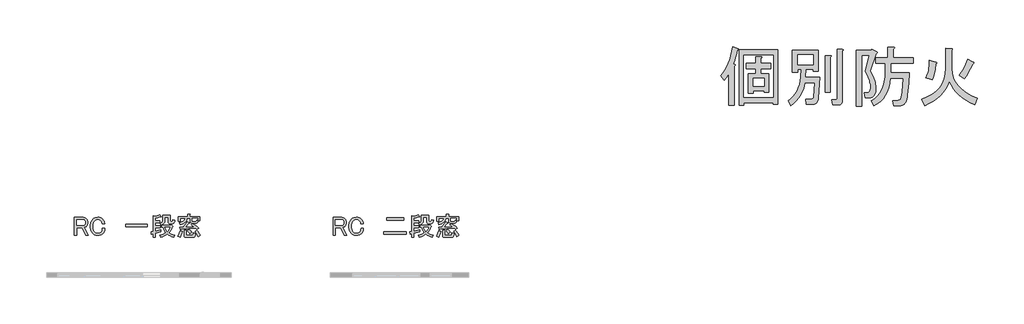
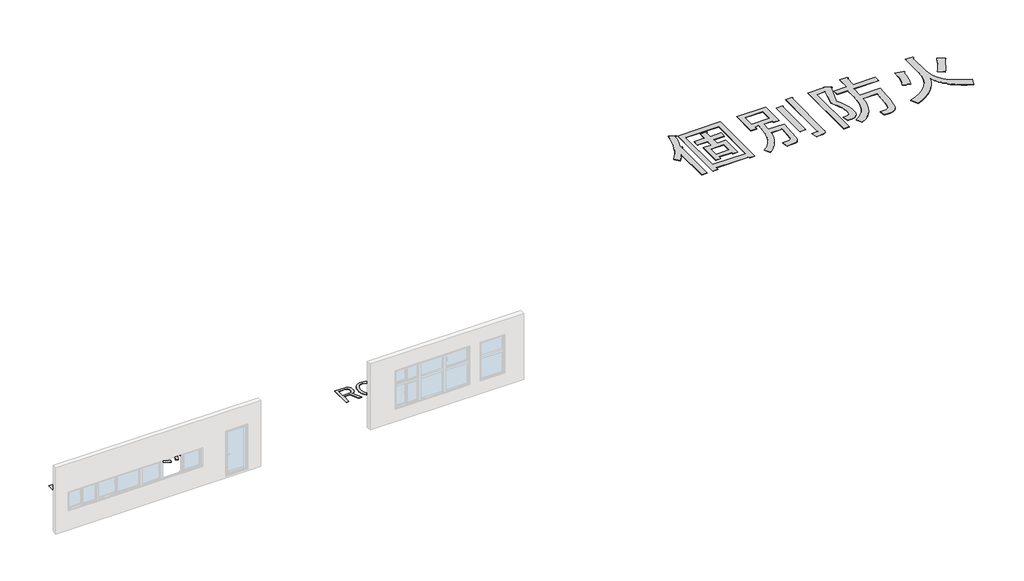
# One storey, part 9 of 9: 3 proxies.
"""IFC4 building model written with IfcOpenShell, lengths in millimetres."""

from ifc_helpers import new_model, si_unit, origin, origin_with_axes, place, context, project, spatial, polyline, outline, extrude, element, save

model = new_model("IFC4")

# Units and contexts
model_context = context("Model", 3, world=origin())
ifc_project = project(units=[si_unit("LENGTHUNIT", "METRE", prefix="MILLI")], contexts=[model_context])

# Site, building, storey
site = spatial("IfcSite", under=ifc_project)
building = spatial("IfcBuilding", under=site)
storey = spatial("IfcBuildingStorey", under=building, Name="レベル 1", Elevation=0.0)

# Proxies
placement = place(None, origin())
element("IfcBuildingElementProxy", 1, Name="600mm Arial", ObjectType="600mm Arial", at=placement, inside=storey, context=model_context, shape_type="SweptSolid", body=[
    extrude(outline(polyline([(161236.0697416, 3042.8218942), (161645.9125802, 3042.8218942), (161692.5687961, 3038.8576406), (161734.9558159, 3026.9648796), (161773.0736394, 3007.1436114), (161806.9222667, 2979.3938359), (161834.6720422, 2944.6303808), (161854.4933105, 2903.768074), (161866.3860714, 2856.8069154), (161870.3503251, 2803.7469051), (161866.3860714, 2750.6868948), (161854.4933105, 2703.7257362), (161834.6720422, 2662.8634294), (161806.9222667, 2628.0999743), (161788.0158262, 2612.5479023), (161765.4500747, 2600.0452562), (161739.2250121, 2590.592036), (161709.3406385, 2584.1882416), (161899.6248135, 2208.498973), (161777.6477782, 2208.498973), (161602.0008475, 2562.5251202), (161348.2886141, 2562.5251202), (161348.2886141, 2208.498973), (161236.0697416, 2208.498973), (161236.0697416, 3042.8218942)]), holes=[polyline([(161348.2886141, 2943.0934702), (161348.2886141, 2662.2535442), (161636.1544173, 2662.2535442), (161659.6349966, 2664.3881423), (161681.2859204, 2670.7919367), (161701.1071886, 2681.4649272), (161719.0988013, 2696.4071141), (161734.0409881, 2715.9234397), (161744.7139787, 2740.3188468), (161751.1177731, 2769.5933352), (161753.2523712, 2803.7469051), (161750.8128305, 2836.0708194), (161743.4942084, 2864.7354227), (161731.2965048, 2889.740715), (161714.2197199, 2911.0866961), (161693.7885665, 2925.0896598), (161671.5277576, 2935.0917767), (161647.4372931, 2941.0930468), (161621.5171731, 2943.0934702), (161348.2886141, 2943.0934702)])]), origin_with_axes(), (0.0, 0.0, 1.0), 10.0),
    extrude(outline(polyline([(161988.8144217, 2618.3418115), (161990.7203129, 2670.5632297), (161996.4379864, 2719.8876934), (162005.9674423, 2766.3152024), (162019.3086805, 2809.8457569), (162036.4617011, 2850.4793567), (162057.426504, 2888.216002), (162082.2030893, 2923.0556927), (162110.791457, 2954.9984288), (162134.8056858, 2976.7255882), (162160.4970988, 2995.5557931), (162187.8656961, 3011.4890433), (162216.9114777, 3024.5253389), (162247.6344434, 3034.66468), (162280.0345934, 3041.9070665), (162349.8664461, 3047.7009756), (162419.0884136, 3042.5169516), (162480.3818738, 3026.9648796), (162508.0554137, 3015.3008256), (162533.7468268, 3001.0447596), (162557.456113, 2984.1966817), (162579.1832724, 2964.7565917), (162617.9109811, 2917.7954331), (162646.2706418, 2864.7354227), (162664.2622545, 2805.5765606), (162671.8858192, 2740.3188468), (162554.7878654, 2740.3188468), (162547.1643007, 2788.4997757), (162534.0517694, 2830.5818529), (162515.4502715, 2866.5650783), (162491.359807, 2896.4494519), (162460.5606056, 2922.0646293), (162426.7119783, 2940.3611846), (162389.8139252, 2951.3391178), (162349.8664461, 2954.9984288), (162307.1744838, 2950.7292326), (162266.9220621, 2937.9216439), (162229.1091812, 2916.5756627), (162193.735841, 2886.6912891), (162173.1522163, 2863.2869454), (162155.3130748, 2836.9856472), (162140.2184167, 2807.7873944), (162127.8682419, 2775.692187), (162118.2625504, 2740.700025), (162111.4013422, 2702.8109084), (162105.9123756, 2618.3418115), (162111.4013422, 2533.8727146), (162118.2625504, 2495.983598), (162127.8682419, 2460.991436), (162140.2184167, 2428.8962286), (162155.3130748, 2399.6979758), (162173.1522163, 2373.3966775), (162193.735841, 2349.9923339), (162227.2795257, 2322.2425584), (162264.4825214, 2302.4212901), (162305.3448282, 2290.5285292), (162349.8664461, 2286.5642756), (162395.9127769, 2289.918644), (162436.4701411, 2299.9817494), (162471.5385388, 2316.7535918), (162501.1179698, 2340.2341711), (162531.0023435, 2378.047052), (162552.3483246, 2423.1785551), (162565.1559134, 2475.6286802), (162569.4251096, 2535.3974275), (162686.5230634, 2535.3974275), (162678.5945562, 2457.0271823), (162670.5135776, 2421.2726639), (162659.6881157, 2387.8052148), (162646.1181705, 2356.6248352), (162629.803742, 2327.731525), (162610.7448303, 2301.1252841), (162588.9414352, 2276.8061127), (162567.0618045, 2257.3660227), (162542.8951044, 2240.5179447), (162516.4413349, 2226.2618787), (162487.700496, 2214.5978247), (162423.3576099, 2199.0457528), (162349.8664461, 2193.8617288), (162280.0345934, 2199.6556379), (162247.6344434, 2206.8980244), (162216.9114777, 2217.0373655), (162187.8656961, 2230.0736611), (162160.4970988, 2246.0069113), (162134.8056858, 2264.8371161), (162110.791457, 2286.5642756), (162082.2030893, 2318.430776), (162057.426504, 2353.0417598), (162036.4617011, 2390.3972268), (162019.3086805, 2430.4971772), (162005.9674423, 2473.3416108), (161996.4379864, 2518.9305277), (161990.7203129, 2567.263928), (161988.8144217, 2618.3418115)])), origin_with_axes(), (0.0, 0.0, 1.0), 10.0),
    extrude(outline(polyline([(164696.3142782, 2725.6816025), (164696.3142782, 2613.4627301), (163666.8281005, 2613.4627301), (163666.8281005, 2725.6816025), (164696.3142782, 2725.6816025)])), origin_with_axes(), (0.0, 0.0, 1.0), 10.0),
    extrude(outline(polyline([(165067.1244654, 3101.3708712), (165127.1981553, 3112.6537469), (165185.4421896, 3126.9860486), (165241.8565684, 3144.3677761), (165296.4412917, 3164.7989295), (165364.7484315, 3086.7336269), (165369.6275129, 3076.3655789), (165364.7484315, 3069.656842), (165350.1111872, 3066.6074161), (165325.7157802, 3067.2173013), (165204.9585152, 3041.6021239), (165076.8826282, 3023.3055686), (165076.8826282, 2891.5703705), (165306.1994545, 2891.5703705), (165306.1994545, 2791.8419465), (165076.8826282, 2791.8419465), (165076.8826282, 2657.3744628), (165311.0785359, 2657.3744628), (165311.0785359, 2557.6460387), (165076.8826282, 2557.6460387), (165076.8826282, 2393.9040666), (165354.9902686, 2452.4530435), (165354.9902686, 2364.6295781), (165076.8826282, 2291.443357), (165076.8826282, 2096.2801005), (164977.1542042, 2096.2801005), (164977.1542042, 2271.9270313), (164925.6311045, 2257.2897871), (164922.276736, 2243.5673706), (164917.092712, 2236.5536911), (164910.0790325, 2236.2487485), (164901.2356974, 2242.6525429), (164886.5984532, 2364.6295781), (164977.1542042, 2379.2668224), (164977.1542042, 3120.8871968), (165067.1244654, 3101.3708712)])), origin_with_axes(), (0.0, 0.0, 1.0), 10.0),
    extrude(outline(polyline([(165959.9963636, 2096.2801005), (165878.8816351, 2126.4694168), (165801.4262177, 2163.3674699), (165727.6301114, 2206.97426), (165657.4933161, 2257.2897871), (165594.0652578, 2210.3286285), (165520.8790366, 2167.026781), (165437.9346526, 2127.3842445), (165345.2321058, 2091.4010191), (165301.3203731, 2193.8617288), (165390.6685514, 2221.9164469), (165468.4289114, 2252.4107057), (165534.6014531, 2285.3445052), (165589.1861763, 2320.7178454), (165546.1892714, 2379.1814384), (165509.9011034, 2440.5968757), (165480.3216724, 2504.9641572), (165457.4509783, 2572.283283), (165384.2647571, 2572.283283), (165384.2647571, 2672.011707), (165813.6239212, 2672.011707), (165833.1402469, 2691.5280327), (165911.2055495, 2628.0999743), (165921.2686549, 2619.2566393), (165922.1834826, 2612.2429597), (165913.9500328, 2607.0589357), (165896.5683052, 2603.7045673), (165858.1455391, 2516.1860445), (165816.0634619, 2439.0355696), (165770.3220737, 2372.2531428), (165720.9213744, 2315.838764), (165778.5555236, 2285.0395626), (165844.1181801, 2256.0700167), (165917.6093438, 2228.9301264), (165999.0290149, 2203.6198916), (165959.9963636, 2096.2801005)]), holes=[polyline([(165545.2744436, 2572.283283), (165561.4364008, 2524.5658668), (165585.5268653, 2475.677471), (165617.545837, 2425.6180958), (165657.4933161, 2374.387741), (165696.2210248, 2418.5922185), (165729.4597669, 2466.3096347), (165757.2095424, 2517.5399895), (165779.4703514, 2572.283283), (165545.2744436, 2572.283283)])]), origin_with_axes(), (0.0, 0.0, 1.0), 10.0),
    extrude(outline(polyline([(165872.1728982, 2847.6586378), (165895.3485349, 2852.5377192), (165902.3622144, 2858.636571), (165906.326468, 2867.1749634), (165925.8427937, 2945.240266), (166018.5453405, 2920.844859), (166010.235655, 2880.317989), (165999.9438426, 2845.1947017), (165987.6699034, 2815.474997), (165973.4138374, 2791.1588751), (165957.1756446, 2772.2463357), (165938.955325, 2758.7373791), (165918.7528785, 2750.6320051), (165896.5683052, 2747.9302138), (165794.1075956, 2747.9302138), (165773.0208156, 2749.3359991), (165754.7456063, 2753.5533551), (165739.2819677, 2760.5822817), (165726.6298997, 2770.4227791), (165716.7894024, 2783.074847), (165709.7604757, 2798.5384857), (165705.5431197, 2816.813695), (165704.1373344, 2837.900475), (165704.1373344, 3050.4332612), (165535.5162808, 3050.4332612), (165535.5162808, 2906.2076147), (165532.6193262, 2865.3453079), (165523.9284625, 2828.1423122), (165509.4436895, 2794.5986275), (165489.1650074, 2764.7142538), (165463.0924161, 2738.4891912), (165431.2259157, 2715.9234397), (165393.565506, 2697.0169992), (165350.1111872, 2681.7698698), (165311.0785359, 2769.5933352), (165340.307283, 2778.2079633), (165365.6388638, 2789.4146035), (165387.0732783, 2803.2132556), (165404.6105266, 2819.6039197), (165418.2506085, 2838.5865958), (165427.9935242, 2860.1612839), (165433.8392737, 2884.327984), (165435.7878568, 2911.0866961), (165435.7878568, 3150.1616853), (165803.8657584, 3150.1616853), (165803.8657584, 2886.6912891), (165806.0003565, 2869.6145041), (165812.4041509, 2857.4168006), (165823.0771415, 2850.0981785), (165838.0193283, 2847.6586378), (165872.1728982, 2847.6586378)])), origin_with_axes(), (0.0, 0.0, 1.0), 10.0),
    extrude(outline(polyline([(167209.0412047, 3086.7336269), (167209.0412047, 2896.4494519), (167126.0968207, 2896.4494519), (167110.5447487, 2845.4752489), (167100.2529364, 2825.4496691), (167088.2839398, 2809.0651038), (167074.637759, 2796.3215531), (167059.3143939, 2787.2190168), (167042.3138446, 2781.7574951), (167023.6361111, 2779.9369878), (166818.7146919, 2779.9369878), (166785.7564969, 2785.3893613), (166772.8086346, 2792.2048281), (166762.2149291, 2801.7464817), (166753.9753804, 2814.014322), (166748.0899884, 2829.0083491), (166743.3816749, 2867.1749634), (166743.3816749, 2999.4956513), (166599.1560284, 2999.4956513), (166592.8284697, 2950.2321762), (166576.2853343, 2904.2193891), (166549.5266222, 2861.4572899), (166512.5523333, 2821.9458788), (166465.3624678, 2785.6851556), (166407.9570256, 2752.6751204), (166340.3360067, 2722.9157733), (166262.499411, 2696.4071141), (166233.2249226, 2789.1096609), (166296.1193314, 2807.7233564), (166350.627819, 2828.5326387), (166396.7503855, 2851.5375075), (166434.4870308, 2876.737963), (166463.8377549, 2904.1340051), (166484.8025578, 2933.7256339), (166497.3814396, 2965.5128493), (166501.5744002, 2999.4956513), (166272.2575739, 2999.4956513), (166272.2575739, 2872.0540449), (166172.5291498, 2872.0540449), (166172.5291498, 3086.7336269), (166636.0418838, 3086.7336269), (166636.0418838, 3203.8315808), (166730.8912265, 3203.8315808), (166745.8334133, 3200.1722697), (166751.6273225, 3194.073418), (166748.272954, 3185.5350255), (166735.7703079, 3174.5570923), (166735.7703079, 3086.7336269), (167209.0412047, 3086.7336269)]), holes=[polyline([(166994.3616227, 2867.1749634), (167009.9136946, 2870.8342745), (167022.4163408, 2881.8122077), (167031.869561, 2900.108763), (167038.2733553, 2925.7239404), (167109.3127807, 2906.2076147), (167109.3127807, 2999.4956513), (166843.1100989, 2999.4956513), (166843.1100989, 2896.4494519), (166844.9397544, 2883.6418632), (166850.428721, 2874.4935856), (166859.5769987, 2869.004619), (166872.3845874, 2867.1749634), (166994.3616227, 2867.1749634)])]), origin_with_axes(), (0.0, 0.0, 1.0), 10.0),
    extrude(outline(polyline([(166540.6070514, 2099.0123861), (166519.5202715, 2100.4181715), (166501.2450622, 2104.6355275), (166485.7814235, 2111.6644541), (166473.1293555, 2121.5049514), (166463.2888582, 2134.1570194), (166456.2599316, 2149.6206581), (166452.0425756, 2167.8958674), (166450.6367902, 2188.9826473), (166450.6367902, 2432.9367179), (166545.4861329, 2432.9367179), (166560.4283197, 2429.2774068), (166566.2222289, 2423.1785551), (166562.8678604, 2414.6401626), (166550.3652143, 2403.6622294), (166550.3652143, 2232.89438), (166552.1948698, 2217.9521932), (166557.6838364, 2207.2792026), (166566.832114, 2200.8754083), (166579.6397027, 2198.7408102), (166838.2310175, 2198.7408102), (166849.7426002, 2200.4179944), (166859.8819413, 2205.4495471), (166876.0438984, 2225.5757579), (166886.716889, 2259.1194426), (166891.900913, 2306.0806012), (166999.2407041, 2281.6851941), (166994.3616227, 2238.8712548), (166987.0430005, 2201.7658406), (166977.2848377, 2170.3689518), (166965.0871342, 2144.6805881), (166950.44989, 2124.7007498), (166933.373105, 2110.4294366), (166913.8567794, 2101.8666488), (166891.900913, 2099.0123861), (166540.6070514, 2099.0123861)])), origin_with_axes(), (0.0, 0.0, 1.0), 10.0),
    extrude(outline(polyline([(166306.4111437, 2491.4856948), (166303.0567753, 2477.7632783), (166297.8727513, 2470.7495988), (166290.8590717, 2470.4446562), (166282.0157367, 2476.8484506), (166257.6203296, 2584.1882416), (166408.8718534, 2584.1882416), (166594.276947, 2842.7795564), (166691.8585752, 2784.2305795), (166692.1635178, 2774.167474), (166688.1992641, 2768.3735649), (166679.9658142, 2766.8488519), (166667.4631681, 2769.5933352), (166501.5744002, 2584.1882416), (166921.1754015, 2608.5836487), (166854.0880321, 2661.0337738), (166789.4402034, 2701.2861955), (166852.8682617, 2754.956091), (166915.6864349, 2725.0717174), (166987.0430005, 2679.3303291), (167066.9379586, 2617.7319263), (167155.3713092, 2540.2765089), (167067.5478438, 2471.9693692), (166999.2407041, 2540.2765089), (166306.4111437, 2491.4856948)])), origin_with_axes(), (0.0, 0.0, 1.0), 10.0),
    extrude(outline(polyline([(167057.789681, 2432.9367179), (167106.2755525, 2378.047052), (167149.2724574, 2320.7178454), (167186.7803958, 2260.9490981), (167218.7993675, 2198.7408102), (167121.2177393, 2135.3127518), (167090.4185379, 2203.6198916), (167056.5699106, 2267.0479499), (167019.6718575, 2325.5969268), (166979.7243784, 2379.2668224), (167057.789681, 2432.9367179)])), origin_with_axes(), (0.0, 0.0, 1.0), 10.0),
    extrude(outline(polyline([(166721.1330636, 2276.8061127), (166703.4463935, 2309.7399123), (166679.6608717, 2345.1132525), (166613.7932726, 2423.1785551), (166696.7376566, 2476.8484506), (166727.8418006, 2450.0135028), (166757.7261742, 2418.2994736), (166786.3907775, 2381.7063631), (166813.8356105, 2340.2341711), (166721.1330636, 2276.8061127)])), origin_with_axes(), (0.0, 0.0, 1.0), 10.0),
    extrude(outline(polyline([(166164.9177828, 2159.7081589), (166200.5960656, 2228.9301264), (166229.5656115, 2295.102668), (166251.8264204, 2358.2257838), (166267.3784924, 2418.2994736), (166364.9601207, 2384.1459038), (166371.9738002, 2376.8272817), (166373.4985131, 2369.5086595), (166369.5342595, 2362.1900374), (166360.0810392, 2354.8714153), (166341.1745988, 2288.3939311), (166318.6088473, 2225.5757579), (166292.3837847, 2166.4168958), (166262.499411, 2110.9173448), (166164.9177828, 2159.7081589)])), origin_with_axes(), (0.0, 0.0, 1.0), 10.0),
])
element("IfcBuildingElementProxy", 2, Name="600mm Arial", ObjectType="600mm Arial", at=placement, inside=storey, context=model_context, shape_type="SweptSolid", body=[
    extrude(outline(polyline([(173541.0127567, 3042.8218942), (173950.8555952, 3042.8218942), (173997.5118112, 3038.8576406), (174039.898831, 3026.9648796), (174078.0166545, 3007.1436114), (174111.8652818, 2979.3938359), (174139.6150573, 2944.6303808), (174159.4363256, 2903.768074), (174171.3290865, 2856.8069154), (174175.2933401, 2803.7469051), (174171.3290865, 2750.6868948), (174159.4363256, 2703.7257362), (174139.6150573, 2662.8634294), (174111.8652818, 2628.0999743), (174092.9588413, 2612.5479023), (174070.3930898, 2600.0452562), (174044.1680272, 2590.592036), (174014.2836536, 2584.1882416), (174204.5678286, 2208.498973), (174082.5907933, 2208.498973), (173906.9438625, 2562.5251202), (173653.2316292, 2562.5251202), (173653.2316292, 2208.498973), (173541.0127567, 2208.498973), (173541.0127567, 3042.8218942)]), holes=[polyline([(173653.2316292, 2943.0934702), (173653.2316292, 2662.2535442), (173941.0974324, 2662.2535442), (173964.5780117, 2664.3881423), (173986.2289355, 2670.7919367), (174006.0502037, 2681.4649272), (174024.0418164, 2696.4071141), (174038.9840032, 2715.9234397), (174049.6569938, 2740.3188468), (174056.0607882, 2769.5933352), (174058.1953863, 2803.7469051), (174055.7558456, 2836.0708194), (174048.4372235, 2864.7354227), (174036.2395199, 2889.740715), (174019.162735, 2911.0866961), (173998.7315816, 2925.0896598), (173976.4707726, 2935.0917767), (173952.3803082, 2941.0930468), (173926.4601882, 2943.0934702), (173653.2316292, 2943.0934702)])]), origin_with_axes(), (0.0, 0.0, 1.0), 10.0),
    extrude(outline(polyline([(174293.7574368, 2618.3418115), (174295.663328, 2670.5632297), (174301.3810015, 2719.8876934), (174310.9104574, 2766.3152024), (174324.2516956, 2809.8457569), (174341.4047162, 2850.4793567), (174362.3695191, 2888.216002), (174387.1461044, 2923.0556927), (174415.7344721, 2954.9984288), (174439.7487009, 2976.7255882), (174465.4401139, 2995.5557931), (174492.8087112, 3011.4890433), (174521.8544927, 3024.5253389), (174552.5774585, 3034.66468), (174584.9776085, 3041.9070665), (174654.8094612, 3047.7009756), (174724.0314287, 3042.5169516), (174785.3248889, 3026.9648796), (174812.9984288, 3015.3008256), (174838.6898419, 3001.0447596), (174862.3991281, 2984.1966817), (174884.1262875, 2964.7565917), (174922.8539962, 2917.7954331), (174951.2136569, 2864.7354227), (174969.2052696, 2805.5765606), (174976.8288343, 2740.3188468), (174859.7308804, 2740.3188468), (174852.1073157, 2788.4997757), (174838.9947844, 2830.5818529), (174820.3932866, 2866.5650783), (174796.3028221, 2896.4494519), (174765.5036207, 2922.0646293), (174731.6549934, 2940.3611846), (174694.7569402, 2951.3391178), (174654.8094612, 2954.9984288), (174612.1174988, 2950.7292326), (174571.8650772, 2937.9216439), (174534.0521963, 2916.5756627), (174498.678856, 2886.6912891), (174478.0952313, 2863.2869454), (174460.2560899, 2836.9856472), (174445.1614318, 2807.7873944), (174432.811257, 2775.692187), (174423.2055655, 2740.700025), (174416.3443572, 2702.8109084), (174410.8553906, 2618.3418115), (174416.3443572, 2533.8727146), (174423.2055655, 2495.983598), (174432.811257, 2460.991436), (174445.1614318, 2428.8962286), (174460.2560899, 2399.6979758), (174478.0952313, 2373.3966775), (174498.678856, 2349.9923339), (174532.2225407, 2322.2425584), (174569.4255365, 2302.4212901), (174610.2878433, 2290.5285292), (174654.8094612, 2286.5642756), (174700.855792, 2289.918644), (174741.4131562, 2299.9817494), (174776.4815539, 2316.7535918), (174806.0609849, 2340.2341711), (174835.9453586, 2378.047052), (174857.2913397, 2423.1785551), (174870.0989284, 2475.6286802), (174874.3681247, 2535.3974275), (174991.4660785, 2535.3974275), (174983.5375712, 2457.0271823), (174975.4565927, 2421.2726639), (174964.6311308, 2387.8052148), (174951.0611856, 2356.6248352), (174934.7467571, 2327.731525), (174915.6878454, 2301.1252841), (174893.8844503, 2276.8061127), (174872.0048196, 2257.3660227), (174847.8381195, 2240.5179447), (174821.38435, 2226.2618787), (174792.643511, 2214.5978247), (174728.3006249, 2199.0457528), (174654.8094612, 2193.8617288), (174584.9776085, 2199.6556379), (174552.5774585, 2206.8980244), (174521.8544927, 2217.0373655), (174492.8087112, 2230.0736611), (174465.4401139, 2246.0069113), (174439.7487009, 2264.8371161), (174415.7344721, 2286.5642756), (174387.1461044, 2318.430776), (174362.3695191, 2353.0417598), (174341.4047162, 2390.3972268), (174324.2516956, 2430.4971772), (174310.9104574, 2473.3416108), (174301.3810015, 2518.9305277), (174295.663328, 2567.263928), (174293.7574368, 2618.3418115)])), origin_with_axes(), (0.0, 0.0, 1.0), 10.0),
    extrude(outline(polyline([(176898.7965836, 3028.18465), (176898.7965836, 2915.9657775), (176098.6272323, 2915.9657775), (176098.6272323, 3028.18465), (176898.7965836, 3028.18465)])), origin_with_axes(), (0.0, 0.0, 1.0), 10.0),
    extrude(outline(polyline([(177020.7736189, 2364.6295781), (177020.7736189, 2252.4107057), (175966.8920342, 2252.4107057), (175966.8920342, 2364.6295781), (177020.7736189, 2364.6295781)])), origin_with_axes(), (0.0, 0.0, 1.0), 10.0),
    extrude(outline(polyline([(177372.0674805, 3101.3708712), (177432.1411704, 3112.6537469), (177490.3852047, 3126.9860486), (177546.7995835, 3144.3677761), (177601.3843068, 3164.7989295), (177669.6914465, 3086.7336269), (177674.5705279, 3076.3655789), (177669.6914465, 3069.656842), (177655.0542023, 3066.6074161), (177630.6587953, 3067.2173013), (177509.9015303, 3041.6021239), (177381.8256433, 3023.3055686), (177381.8256433, 2891.5703705), (177611.1424696, 2891.5703705), (177611.1424696, 2791.8419465), (177381.8256433, 2791.8419465), (177381.8256433, 2657.3744628), (177616.021551, 2657.3744628), (177616.021551, 2557.6460387), (177381.8256433, 2557.6460387), (177381.8256433, 2393.9040666), (177659.9332837, 2452.4530435), (177659.9332837, 2364.6295781), (177381.8256433, 2291.443357), (177381.8256433, 2096.2801005), (177282.0972193, 2096.2801005), (177282.0972193, 2271.9270313), (177230.5741196, 2257.2897871), (177227.2197511, 2243.5673706), (177222.0357271, 2236.5536911), (177215.0220476, 2236.2487485), (177206.1787125, 2242.6525429), (177191.5414683, 2364.6295781), (177282.0972193, 2379.2668224), (177282.0972193, 3120.8871968), (177372.0674805, 3101.3708712)])), origin_with_axes(), (0.0, 0.0, 1.0), 10.0),
    extrude(outline(polyline([(178264.9393787, 2096.2801005), (178183.8246502, 2126.4694168), (178106.3692328, 2163.3674699), (178032.5731265, 2206.97426), (177962.4363312, 2257.2897871), (177899.0082728, 2210.3286285), (177825.8220517, 2167.026781), (177742.8776677, 2127.3842445), (177650.1751209, 2091.4010191), (177606.2633882, 2193.8617288), (177695.6115665, 2221.9164469), (177773.3719265, 2252.4107057), (177839.5444682, 2285.3445052), (177894.1291914, 2320.7178454), (177851.1322865, 2379.1814384), (177814.8441185, 2440.5968757), (177785.2646875, 2504.9641572), (177762.3939933, 2572.283283), (177689.2077722, 2572.283283), (177689.2077722, 2672.011707), (178118.5669363, 2672.011707), (178138.083262, 2691.5280327), (178216.1485645, 2628.0999743), (178226.21167, 2619.2566393), (178227.1264977, 2612.2429597), (178218.8930478, 2607.0589357), (178201.5113203, 2603.7045673), (178163.0885542, 2516.1860445), (178121.006477, 2439.0355696), (178075.2650888, 2372.2531428), (178025.8643895, 2315.838764), (178083.4985387, 2285.0395626), (178149.0611951, 2256.0700167), (178222.5523589, 2228.9301264), (178303.9720299, 2203.6198916), (178264.9393787, 2096.2801005)]), holes=[polyline([(177850.2174587, 2572.283283), (177866.3794159, 2524.5658668), (177890.4698804, 2475.677471), (177922.4888521, 2425.6180958), (177962.4363312, 2374.387741), (178001.1640399, 2418.5922185), (178034.402782, 2466.3096347), (178062.1525575, 2517.5399895), (178084.4133665, 2572.283283), (177850.2174587, 2572.283283)])]), origin_with_axes(), (0.0, 0.0, 1.0), 10.0),
    extrude(outline(polyline([(178177.1159133, 2847.6586378), (178200.29155, 2852.5377192), (178207.3052295, 2858.636571), (178211.2694831, 2867.1749634), (178230.7858088, 2945.240266), (178323.4883556, 2920.844859), (178315.1786701, 2880.317989), (178304.8868577, 2845.1947017), (178292.6129185, 2815.474997), (178278.3568525, 2791.1588751), (178262.1186597, 2772.2463357), (178243.8983401, 2758.7373791), (178223.6958936, 2750.6320051), (178201.5113203, 2747.9302138), (178099.0506107, 2747.9302138), (178077.9638307, 2749.3359991), (178059.6886214, 2753.5533551), (178044.2249828, 2760.5822817), (178031.5729148, 2770.4227791), (178021.7324175, 2783.074847), (178014.7034908, 2798.5384857), (178010.4861348, 2816.813695), (178009.0803495, 2837.900475), (178009.0803495, 3050.4332612), (177840.4592959, 3050.4332612), (177840.4592959, 2906.2076147), (177837.5623413, 2865.3453079), (177828.8714776, 2828.1423122), (177814.3867046, 2794.5986275), (177794.1080225, 2764.7142538), (177768.0354312, 2738.4891912), (177736.1689308, 2715.9234397), (177698.5085211, 2697.0169992), (177655.0542023, 2681.7698698), (177616.021551, 2769.5933352), (177645.2502981, 2778.2079633), (177670.5818789, 2789.4146035), (177692.0162934, 2803.2132556), (177709.5535417, 2819.6039197), (177723.1936236, 2838.5865958), (177732.9365393, 2860.1612839), (177738.7822887, 2884.327984), (177740.7308719, 2911.0866961), (177740.7308719, 3150.1616853), (178108.8087735, 3150.1616853), (178108.8087735, 2886.6912891), (178110.9433716, 2869.6145041), (178117.347166, 2857.4168006), (178128.0201566, 2850.0981785), (178142.9623434, 2847.6586378), (178177.1159133, 2847.6586378)])), origin_with_axes(), (0.0, 0.0, 1.0), 10.0),
    extrude(outline(polyline([(179513.9842198, 3086.7336269), (179513.9842198, 2896.4494519), (179431.0398358, 2896.4494519), (179415.4877638, 2845.4752489), (179405.1959515, 2825.4496691), (179393.2269549, 2809.0651038), (179379.5807741, 2796.3215531), (179364.257409, 2787.2190168), (179347.2568597, 2781.7574951), (179328.5791262, 2779.9369878), (179123.6577069, 2779.9369878), (179090.699512, 2785.3893613), (179077.7516497, 2792.2048281), (179067.1579442, 2801.7464817), (179058.9183955, 2814.014322), (179053.0330035, 2829.0083491), (179048.32469, 2867.1749634), (179048.32469, 2999.4956513), (178904.0990435, 2999.4956513), (178897.7714848, 2950.2321762), (178881.2283494, 2904.2193891), (178854.4696372, 2861.4572899), (178817.4953484, 2821.9458788), (178770.3054829, 2785.6851556), (178712.9000407, 2752.6751204), (178645.2790218, 2722.9157733), (178567.4424261, 2696.4071141), (178538.1679377, 2789.1096609), (178601.0623465, 2807.7233564), (178655.5708341, 2828.5326387), (178701.6934006, 2851.5375075), (178739.4300459, 2876.737963), (178768.78077, 2904.1340051), (178789.7455729, 2933.7256339), (178802.3244547, 2965.5128493), (178806.5174152, 2999.4956513), (178577.2005889, 2999.4956513), (178577.2005889, 2872.0540449), (178477.4721649, 2872.0540449), (178477.4721649, 3086.7336269), (178940.9848989, 3086.7336269), (178940.9848989, 3203.8315808), (179035.8342416, 3203.8315808), (179050.7764284, 3200.1722697), (179056.5703376, 3194.073418), (179053.2159691, 3185.5350255), (179040.713323, 3174.5570923), (179040.713323, 3086.7336269), (179513.9842198, 3086.7336269)]), holes=[polyline([(179299.3046377, 2867.1749634), (179314.8567097, 2870.8342745), (179327.3593558, 2881.8122077), (179336.8125761, 2900.108763), (179343.2163704, 2925.7239404), (179414.2557958, 2906.2076147), (179414.2557958, 2999.4956513), (179148.053114, 2999.4956513), (179148.053114, 2896.4494519), (179149.8827695, 2883.6418632), (179155.3717361, 2874.4935856), (179164.5200138, 2869.004619), (179177.3276025, 2867.1749634), (179299.3046377, 2867.1749634)])]), origin_with_axes(), (0.0, 0.0, 1.0), 10.0),
    extrude(outline(polyline([(178845.5500665, 2099.0123861), (178824.4632866, 2100.4181715), (178806.1880773, 2104.6355275), (178790.7244386, 2111.6644541), (178778.0723706, 2121.5049514), (178768.2318733, 2134.1570194), (178761.2029466, 2149.6206581), (178756.9855907, 2167.8958674), (178755.5798053, 2188.9826473), (178755.5798053, 2432.9367179), (178850.4291479, 2432.9367179), (178865.3713348, 2429.2774068), (178871.1652439, 2423.1785551), (178867.8108755, 2414.6401626), (178855.3082294, 2403.6622294), (178855.3082294, 2232.89438), (178857.1378849, 2217.9521932), (178862.6268515, 2207.2792026), (178871.7751291, 2200.8754083), (178884.5827178, 2198.7408102), (179143.1740326, 2198.7408102), (179154.6856153, 2200.4179944), (179164.8249564, 2205.4495471), (179180.9869135, 2225.5757579), (179191.6599041, 2259.1194426), (179196.8439281, 2306.0806012), (179304.1837191, 2281.6851941), (179299.3046377, 2238.8712548), (179291.9860156, 2201.7658406), (179282.2278528, 2170.3689518), (179270.0301493, 2144.6805881), (179255.392905, 2124.7007498), (179238.3161201, 2110.4294366), (179218.7997945, 2101.8666488), (179196.8439281, 2099.0123861), (178845.5500665, 2099.0123861)])), origin_with_axes(), (0.0, 0.0, 1.0), 10.0),
    extrude(outline(polyline([(178611.3541588, 2491.4856948), (178607.9997903, 2477.7632783), (178602.8157663, 2470.7495988), (178595.8020868, 2470.4446562), (178586.9587518, 2476.8484506), (178562.5633447, 2584.1882416), (178713.8148684, 2584.1882416), (178899.2199621, 2842.7795564), (178996.8015903, 2784.2305795), (178997.1065329, 2774.167474), (178993.1422792, 2768.3735649), (178984.9088293, 2766.8488519), (178972.4061832, 2769.5933352), (178806.5174152, 2584.1882416), (179226.1184166, 2608.5836487), (179159.0310472, 2661.0337738), (179094.3832185, 2701.2861955), (179157.8112768, 2754.956091), (179220.62945, 2725.0717174), (179291.9860156, 2679.3303291), (179371.8809737, 2617.7319263), (179460.3143243, 2540.2765089), (179372.4908589, 2471.9693692), (179304.1837191, 2540.2765089), (178611.3541588, 2491.4856948)])), origin_with_axes(), (0.0, 0.0, 1.0), 10.0),
    extrude(outline(polyline([(179362.7326961, 2432.9367179), (179411.2185676, 2378.047052), (179454.2154725, 2320.7178454), (179491.7234109, 2260.9490981), (179523.7423826, 2198.7408102), (179426.1607544, 2135.3127518), (179395.361553, 2203.6198916), (179361.5129257, 2267.0479499), (179324.6148726, 2325.5969268), (179284.6673935, 2379.2668224), (179362.7326961, 2432.9367179)])), origin_with_axes(), (0.0, 0.0, 1.0), 10.0),
    extrude(outline(polyline([(179026.0760787, 2276.8061127), (179008.3894086, 2309.7399123), (178984.6038867, 2345.1132525), (178918.7362877, 2423.1785551), (179001.6806717, 2476.8484506), (179032.7848157, 2450.0135028), (179062.6691893, 2418.2994736), (179091.3337926, 2381.7063631), (179118.7786255, 2340.2341711), (179026.0760787, 2276.8061127)])), origin_with_axes(), (0.0, 0.0, 1.0), 10.0),
    extrude(outline(polyline([(178469.8607979, 2159.7081589), (178505.5390807, 2228.9301264), (178534.5086266, 2295.102668), (178556.7694355, 2358.2257838), (178572.3215075, 2418.2994736), (178669.9031357, 2384.1459038), (178676.9168153, 2376.8272817), (178678.4415282, 2369.5086595), (178674.4772746, 2362.1900374), (178665.0240543, 2354.8714153), (178646.1176139, 2288.3939311), (178623.5518623, 2225.5757579), (178597.3267998, 2166.4168958), (178567.4424261, 2110.9173448), (178469.8607979, 2159.7081589)])), origin_with_axes(), (0.0, 0.0, 1.0), 10.0),
])
element("IfcBuildingElementProxy", 3, Name="800mm Arial 2", ObjectType="800mm Arial 2", at=placement, inside=storey, context=model_context, shape_type="SweptSolid", body=[
    extrude(outline(polyline([(194485.3665442, 8442.926734), (194485.3665442, 8511.1075304), (193085.9434345, 8511.1075304), (193085.9434345, 8393.8758013), (192866.6857654, 8393.8758013), (192866.6857654, 11018.1007002), (194704.6242133, 11018.1007002), (194704.6242133, 8442.926734), (194485.3665442, 8442.926734)]), holes=[polyline([(193085.9434345, 10767.4504342), (193085.9434345, 8761.7577965), (194485.3665442, 8761.7577965), (194485.3665442, 10767.4504342), (193085.9434345, 10767.4504342)])]), origin_with_axes(), (0.0, 0.0, 1.0), 10.0),
    extrude(outline(polyline([(192632.2223071, 8381.6130681), (192381.5720411, 8381.6130681), (192381.5720411, 9889.9292483), (192331.4787761, 9805.6229578), (192276.8482998, 9724.3823505), (192217.6806122, 9646.2074265), (192153.9757134, 9571.0981859), (191994.5601822, 9779.5646498), (192094.5780996, 9908.7065585), (192186.165388, 10050.8776212), (192269.3220473, 10206.077838), (192344.0480776, 10374.3072087), (192410.3434788, 10555.5657334), (192468.208251, 10749.8534121), (192517.6423941, 10957.1702448), (192558.6459081, 11177.5162315), (192816.1633047, 11079.4143661), (192832.258142, 11057.1881622), (192833.9825889, 11047.7995071), (192831.4917212, 11039.5604833), (192824.785539, 11032.4710907), (192813.8640423, 11026.5313293), (192779.3751052, 11018.1007002), (192749.4846931, 10869.4150605), (192708.8643895, 10705.4010043), (192657.5141943, 10526.0585317), (192595.4341076, 10331.3876426), (192628.1985978, 10327.3639332), (192652.9156694, 10321.4241719), (192669.5853223, 10313.5683584), (192678.2075565, 10303.7964929), (192678.7823722, 10292.1085754), (192671.3097691, 10278.5046058), (192655.7897475, 10262.9845841), (192632.2223071, 10245.5485104), (192632.2223071, 8381.6130681)])), origin_with_axes(), (0.0, 0.0, 1.0), 10.0),
    extrude(outline(polyline([(193907.5465571, 10380.4385753), (194373.5304177, 10380.4385753), (194373.5304177, 10129.7883092), (193907.5465571, 10129.7883092), (193907.5465571, 9877.6665152), (194287.6912854, 9877.6665152), (194287.6912854, 8994.7497268), (194068.4336163, 8994.7497268), (194068.4336163, 9069.7976538), (193527.4018287, 9069.7976538), (193527.4018287, 8945.6987941), (193308.1441596, 8945.6987941), (193308.1441596, 9877.6665152), (193656.896291, 9877.6665152), (193656.896291, 10129.7883092), (193208.5707663, 10129.7883092), (193208.5707663, 10380.4385753), (193656.896291, 10380.4385753), (193656.896291, 10699.2696377), (193895.2838239, 10699.2696377), (193932.8384443, 10690.0725879), (193942.9935202, 10683.1748004), (193947.4004399, 10674.7441714), (193946.0592035, 10664.7807007), (193938.9698108, 10653.2843883), (193907.5465571, 10625.6932387), (193907.5465571, 10380.4385753)]), holes=[polyline([(193527.4018287, 9658.4088461), (193527.4018287, 9289.0553229), (194068.4336163, 9289.0553229), (194068.4336163, 9658.4088461), (193527.4018287, 9658.4088461)])]), origin_with_axes(), (0.0, 0.0, 1.0), 10.0),
    extrude(outline(polyline([(196458.195057, 9455.3379847), (195992.2111964, 9455.3379847), (195957.7222594, 9287.9363485), (195909.4377475, 9129.578478), (195847.3576608, 8980.2643732), (195771.4819993, 8839.9940341), (195681.810763, 8708.7674608), (195578.3439519, 8586.5846531), (195461.0815659, 8473.4456112), (195330.0236051, 8369.350335), (195207.3962734, 8602.3422652), (195334.62213, 8703.1266035), (195446.5195702, 8815.4072541), (195543.088594, 8939.1842171), (195624.3292013, 9074.4574924), (195690.2413921, 9221.22708), (195740.8251664, 9379.49298), (195776.0805243, 9549.2551924), (195796.0074657, 9730.5137171), (195820.532932, 10087.6045071), (195648.8546676, 10087.6045071), (195648.8546676, 9951.2429142), (195398.2044015, 9951.2429142), (195398.2044015, 11005.8379671), (196642.1360546, 11005.8379671), (196642.1360546, 10000.2938469), (196391.4857885, 10000.2938469), (196391.4857885, 10087.6045071), (196041.2621291, 10087.6045071), (196016.7366628, 9705.9882508), (196703.4497204, 9705.9882508), (196642.1360546, 8737.2323301), (196632.9390047, 8664.1157836), (196617.6105882, 8600.7481099), (196596.1508052, 8547.1293091), (196568.5596555, 8503.2593812), (196534.8371393, 8469.1383261), (196494.9832565, 8444.766144), (196448.9980071, 8430.1428347), (196396.8813911, 8425.2683982), (196065.7875955, 8425.2683982), (196028.9993959, 8675.9186643), (196298.7795257, 8675.9186643), (196324.8378337, 8677.8347163), (196347.8304584, 8683.5828725), (196367.7573998, 8693.1631328), (196384.618658, 8706.5754972), (196398.4142328, 8723.8199657), (196409.1441243, 8744.8965384), (196416.8083325, 8769.8052151), (196421.4068575, 8798.545996), (196458.195057, 9455.3379847)]), holes=[polyline([(196391.4857885, 10306.8621762), (196391.4857885, 10786.5802979), (195648.8546676, 10786.5802979), (195648.8546676, 10306.8621762), (196391.4857885, 10306.8621762)])]), origin_with_axes(), (0.0, 0.0, 1.0), 10.0),
    extrude(outline(polyline([(197782.5702396, 8626.8677316), (197779.5045563, 8573.8697316), (197770.3075064, 8527.9381317), (197754.97909, 8489.0729318), (197733.5193069, 8457.2741318), (197705.9281573, 8432.5417318), (197672.2056411, 8414.8757319), (197632.3517583, 8404.2761319), (197586.3665089, 8400.7429319), (197316.5863791, 8400.7429319), (197267.5354464, 8651.3931979), (197500.5273767, 8651.3931979), (197514.2616378, 8653.6924604), (197524.0718243, 8660.5902478), (197529.9579363, 8672.0865601), (197531.9199736, 8688.1813974), (197531.9199736, 11042.6261666), (197770.3075064, 11042.6261666), (197807.8621268, 11033.4291167), (197818.0172027, 11026.5313293), (197822.4241224, 11018.1007002), (197821.082886, 11008.1372295), (197813.9934934, 10996.6409172), (197782.5702396, 10969.0497675), (197782.5702396, 8626.8677316)])), origin_with_axes(), (0.0, 0.0, 1.0), 10.0),
    extrude(outline(polyline([(197193.9590473, 10748.3205704), (197231.5136677, 10739.1235205), (197241.6687436, 10732.2257331), (197246.0756633, 10723.7951041), (197244.7344269, 10713.8316334), (197237.6450343, 10702.335321), (197206.2217805, 10674.7441714), (197206.2217805, 8994.7497268), (196955.5715145, 8994.7497268), (196955.5715145, 10748.3205704), (197193.9590473, 10748.3205704)])), origin_with_axes(), (0.0, 0.0, 1.0), 10.0),
    extrude(outline(polyline([(200063.4386097, 9676.0671818), (200035.0810393, 9438.3924203), (199986.7965274, 9221.5183199), (199918.5850741, 9025.4448807), (199830.4466794, 8850.1721026), (199722.3813434, 8695.6999857), (199594.3890659, 8562.0285299), (199446.469847, 8449.1577353), (199278.6236867, 8357.0876018), (199155.9963549, 8602.3422652), (199312.8060554, 8696.6120265), (199448.7077958, 8813.8744125), (199563.7015761, 8954.1294231), (199657.7873964, 9117.3770585), (199730.9652566, 9303.6173185), (199783.2351567, 9512.8502033), (199814.5970968, 9745.0757127), (199825.0510768, 10000.2938469), (199825.0510768, 10387.3057058), (199364.4628189, 10387.3057058), (199364.4628189, 10637.9559719), (199928.5485448, 10637.9559719), (199928.5485448, 11152.9907651), (200198.3286746, 11152.9907651), (200225.3450086, 11146.0929777), (200245.0803448, 11137.6623487), (200257.5346832, 11127.698878), (200262.7080238, 11116.2025656), (200260.6003665, 11103.1734116), (200251.2117114, 11088.611416), (200234.5420585, 11072.5165787), (200210.5914078, 11054.8888997), (200210.5914078, 10637.9559719), (201154.8218621, 10637.9559719), (201154.8218621, 10387.3057058), (200075.7013429, 10387.3057058), (200075.7013429, 9926.7174479), (200958.6181313, 9926.7174479), (200931.0269817, 9437.7409626), (200914.9321444, 9231.1905507), (200897.3044655, 9049.932026), (200878.1439449, 8893.9653885), (200857.4505826, 8763.2906381), (200835.2243788, 8657.9077749), (200811.4653332, 8577.8167989), (200789.2391294, 8524.818799), (200759.3487173, 8478.887199), (200721.7940969, 8440.0219991), (200676.5752683, 8408.2231991), (200623.6922315, 8383.4907991), (200563.1449865, 8365.8247992), (200494.9335332, 8355.2251992), (200419.0578717, 8351.6919992), (200222.854141, 8351.6919992), (200186.0659414, 8602.3422652), (200370.006939, 8602.3422652), (200408.136375, 8604.4499225), (200442.8169172, 8610.7728943), (200474.0485658, 8621.3111806), (200501.8313206, 8636.0647815), (200526.1651818, 8655.0336968), (200547.0501492, 8678.2179267), (200564.4862229, 8705.6174712), (200578.473403, 8737.2323301), (200590.7361361, 8783.4475058), (200602.9988693, 8849.9881617), (200627.5243357, 9044.0459141), (200652.049802, 9319.4055875), (200676.5752683, 9676.0671818), (200063.4386097, 9676.0671818)])), origin_with_axes(), (0.0, 0.0, 1.0), 10.0),
    extrude(outline(polyline([(199352.2000857, 9423.9453878), (199371.1690011, 9261.7324205), (199372.8934479, 9121.1478489), (199357.3734263, 9002.1916729), (199324.6089361, 8904.8638926), (199274.5999774, 8829.1645079), (199207.3465501, 8775.0935188), (199122.8486543, 8742.6509253), (199021.1062901, 8731.8367275), (198873.953492, 8731.8367275), (198824.9025593, 8982.4869936), (198947.529891, 8982.4869936), (198995.8144029, 8988.2351498), (199036.4347065, 9005.4796183), (199069.3908019, 9034.2203992), (199094.6826891, 9074.4574924), (199112.310368, 9126.1908979), (199122.2738387, 9189.4206159), (199124.5731012, 9264.1466461), (199119.2081554, 9350.3689888), (199110.0111056, 9414.3651275), (199094.6826891, 9483.726212), (199073.222906, 9558.4522423), (199045.6317564, 9638.5432183), (199011.9092402, 9723.9991401), (198972.0553574, 9814.8200077), (198873.953492, 10012.5565801), (199070.1572227, 10755.187701), (198702.2752276, 10755.187701), (198702.2752276, 8332.5621354), (198451.6249615, 8332.5621354), (198451.6249615, 11005.8379671), (199143.7336218, 11005.8379671), (199168.2590881, 11054.8888997), (199425.7764847, 10919.9988348), (199441.871322, 10897.772631), (199443.5957689, 10888.3839759), (199441.1049012, 10880.144952), (199434.398719, 10873.0555594), (199423.4772223, 10867.115798), (199388.9882852, 10858.685169), (199106.9454223, 10024.8193132), (199200.4487627, 9840.1118948), (199272.4923201, 9678.3971011), (199323.0760944, 9539.6749321), (199340.3205629, 9478.9360819), (199352.2000857, 9423.9453878)])), origin_with_axes(), (0.0, 0.0, 1.0), 10.0),
    extrude(outline(polyline([(202871.6045062, 9534.3099863), (202796.878476, 9341.7467545), (202701.4590835, 9162.5958871), (202585.3463287, 8996.857384), (202448.5402118, 8844.5312454), (202291.0407326, 8705.6174712), (202112.8478912, 8580.1160614), (201913.9616875, 8468.0270159), (201694.3821217, 8369.350335), (201547.2293236, 8675.9186643), (201817.3926638, 8779.1938702), (202051.5342253, 8905.0784904), (202249.6540081, 9053.5725249), (202411.7520123, 9224.6759737), (202537.8282377, 9418.3888368), (202627.8826844, 9634.7111142), (202681.9153525, 9873.6428059), (202699.9262418, 10135.1839118), (202699.9262418, 11103.9398324), (202981.9691048, 11079.4143661), (202998.0639421, 11072.5165787), (203009.5602544, 11064.0859496), (203016.4580418, 11054.1224789), (203018.7573043, 11042.6261666), (203016.4580418, 11029.5970126), (203009.5602544, 11015.0350169), (202981.9691048, 10981.3125007), (202981.9691048, 10135.1839118), (203001.1296254, 9906.4072961), (203058.6111871, 9692.1926759), (203154.41379, 9492.5400515), (203288.5374341, 9307.4494227), (203460.9821193, 9136.9207895), (203671.7478457, 8980.9541519), (203920.8346133, 8839.54951), (204208.242422, 8712.7068638), (204085.6150903, 8406.1385345), (203865.4607088, 8504.2403999), (203664.8500583, 8614.6049984), (203483.7831388, 8737.2323301), (203322.2599503, 8872.122395), (203180.2804928, 9019.2751931), (203057.8447663, 9178.6907243), (202954.9527708, 9350.3689888), (202871.6045062, 9534.3099863)])), origin_with_axes(), (0.0, 0.0, 1.0), 10.0),
    extrude(outline(polyline([(203975.2504918, 10343.6503757), (203863.3530516, 10116.0233912), (203760.6526612, 9923.6517646), (203667.1493208, 9766.5354958), (203582.8430302, 9644.6745849), (203337.5883668, 9804.0901161), (203392.1958505, 9880.3489881), (203445.6537029, 9961.9728057), (203497.9619241, 10048.9615692), (203549.120514, 10141.3152784), (203599.1294727, 10239.0339334), (203647.9888002, 10342.1175341), (203742.2585615, 10564.3795728), (204012.0386913, 10429.4895079), (204027.558713, 10420.1008529), (204037.3305785, 10410.3289874), (204041.3542878, 10400.1739115), (204039.6298409, 10389.6356251), (204032.1572379, 10378.7141284), (204018.9364787, 10367.4094213), (203975.2504918, 10343.6503757)])), origin_with_axes(), (0.0, 0.0, 1.0), 10.0),
    extrude(outline(polyline([(201755.6957875, 9693.7255176), (201795.7412755, 9776.3073613), (201830.0386074, 9864.6373612), (201858.5877831, 9958.7155172), (201881.3888026, 10058.5418295), (201898.4416659, 10164.1162979), (201909.746373, 10275.4389225), (201915.302924, 10392.5097032), (201915.302924, 10515.3286401), (202221.6796481, 10441.7522411), (202258.4678476, 10422.5917205), (202267.6648975, 10412.4366446), (202270.7305808, 10401.8983583), (202267.6648975, 10390.9768616), (202258.4678476, 10379.6721544), (202221.6796481, 10355.9131089), (202219.1887804, 10266.2418726), (202211.7161774, 10175.0377946), (202199.261839, 10082.300875), (202181.8257653, 9988.0311137), (202159.4079562, 9892.2285108), (202132.0084118, 9794.8930663), (202099.627132, 9696.0247801), (202062.2641168, 9595.6236522), (201755.6957875, 9693.7255176)])), origin_with_axes(), (0.0, 0.0, 1.0), 10.0),
])

save(model, "model.ifc")
